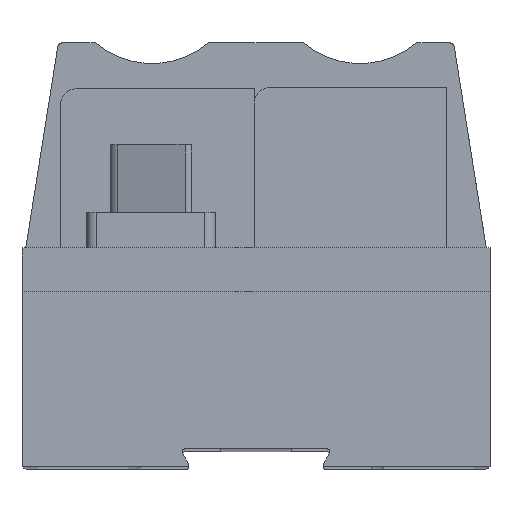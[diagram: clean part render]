
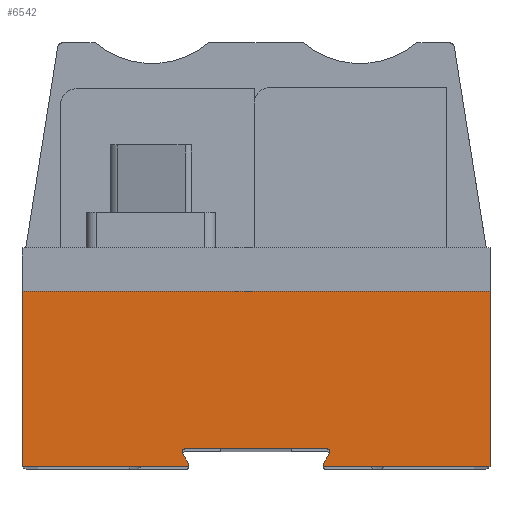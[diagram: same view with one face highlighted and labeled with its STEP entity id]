
A CAD part, top view. The second image highlights one B-rep face of the part: STEP entity #6542.
In plain terms, the highlighted planar face has unit normal (0, 0, 1).
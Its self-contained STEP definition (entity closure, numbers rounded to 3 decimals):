
#347=DIRECTION('',(0.,-1.,0.));
#348=VECTOR('',#347,16.85);
#349=CARTESIAN_POINT('',(-15.7,15.15,153.8));
#350=LINE('',#349,#348);
#351=DIRECTION('',(-1.,0.,0.));
#352=VECTOR('',#351,45.);
#353=CARTESIAN_POINT('',(29.3,15.15,153.8));
#354=LINE('',#353,#352);
#355=DIRECTION('',(0.,1.,0.));
#356=VECTOR('',#355,16.85);
#357=CARTESIAN_POINT('',(29.3,-1.7,153.8));
#358=LINE('',#357,#356);
#359=CARTESIAN_POINT('',(13.485,-1.5,153.8));
#360=DIRECTION('',(0.,0.,1.));
#361=DIRECTION('',(-0.866,0.5,0.));
#362=AXIS2_PLACEMENT_3D('',#359,#360,#361);
#364=DIRECTION('',(-0.5,-0.866,0.));
#365=VECTOR('',#364,1.097);
#366=CARTESIAN_POINT('',(13.86,-0.45,153.8));
#367=LINE('',#366,#365);
#368=CARTESIAN_POINT('',(13.6,-0.3,153.8));
#369=DIRECTION('',(0.,0.,-1.));
#370=DIRECTION('',(0.,1.,0.));
#371=AXIS2_PLACEMENT_3D('',#368,#369,#370);
#373=CARTESIAN_POINT('',(0.,-0.3,153.8));
#374=DIRECTION('',(0.,0.,-1.));
#375=DIRECTION('',(-0.866,-0.5,0.));
#376=AXIS2_PLACEMENT_3D('',#373,#374,#375);
#378=DIRECTION('',(-0.5,0.866,0.));
#379=VECTOR('',#378,1.097);
#380=CARTESIAN_POINT('',(0.289,-1.4,153.8));
#381=LINE('',#380,#379);
#382=CARTESIAN_POINT('',(0.115,-1.5,153.8));
#383=DIRECTION('',(0.,0.,1.));
#384=DIRECTION('',(0.,-1.,0.));
#385=AXIS2_PLACEMENT_3D('',#382,#383,#384);
#391=DIRECTION('',(-1.,0.,0.));
#392=VECTOR('',#391,15.815);
#393=CARTESIAN_POINT('',(29.3,-1.7,153.8));
#394=LINE('',#393,#392);
#719=DIRECTION('',(-1.,0.,0.));
#720=VECTOR('',#719,13.6);
#721=CARTESIAN_POINT('',(13.6,0.,153.8));
#722=LINE('',#721,#720);
#795=DIRECTION('',(-1.,0.,0.));
#796=VECTOR('',#795,15.815);
#797=CARTESIAN_POINT('',(0.115,-1.7,153.8));
#798=LINE('',#797,#796);
#4743=CARTESIAN_POINT('',(-15.7,15.15,153.8));
#4745=VERTEX_POINT('',#4743);
#4749=CARTESIAN_POINT('',(29.3,15.15,153.8));
#4750=VERTEX_POINT('',#4749);
#4793=CARTESIAN_POINT('',(13.311,-1.4,153.8));
#4794=VERTEX_POINT('',#4793);
#4795=CARTESIAN_POINT('',(13.485,-1.7,153.8));
#4796=VERTEX_POINT('',#4795);
#4895=CARTESIAN_POINT('',(-15.7,-1.7,153.8));
#4896=VERTEX_POINT('',#4895);
#4991=CARTESIAN_POINT('',(29.3,-1.7,153.8));
#4992=VERTEX_POINT('',#4991);
#5005=CARTESIAN_POINT('',(13.86,-0.45,153.8));
#5006=VERTEX_POINT('',#5005);
#5007=CARTESIAN_POINT('',(13.6,0.,153.8));
#5008=VERTEX_POINT('',#5007);
#5009=CARTESIAN_POINT('',(0.,0.,153.8));
#5010=VERTEX_POINT('',#5009);
#5011=CARTESIAN_POINT('',(-0.26,-0.45,153.8));
#5012=VERTEX_POINT('',#5011);
#5013=CARTESIAN_POINT('',(0.289,-1.4,153.8));
#5014=VERTEX_POINT('',#5013);
#5015=CARTESIAN_POINT('',(0.115,-1.7,153.8));
#5016=VERTEX_POINT('',#5015);
#6514=CARTESIAN_POINT('',(6.8,6.725,153.8));
#6515=DIRECTION('',(0.,0.,-1.));
#6516=DIRECTION('',(0.,-1.,0.));
#6517=AXIS2_PLACEMENT_3D('',#6514,#6515,#6516);
#6518=PLANE('',#6517);
#6519=ORIENTED_EDGE('',*,*,#6359,.F.);
#6520=ORIENTED_EDGE('',*,*,#6509,.F.);
#6521=ORIENTED_EDGE('',*,*,#6096,.F.);
#6523=ORIENTED_EDGE('',*,*,#6522,.T.);
#6525=ORIENTED_EDGE('',*,*,#6524,.F.);
#6527=ORIENTED_EDGE('',*,*,#6526,.F.);
#6529=ORIENTED_EDGE('',*,*,#6528,.F.);
#6531=ORIENTED_EDGE('',*,*,#6530,.T.);
#6533=ORIENTED_EDGE('',*,*,#6532,.F.);
#6535=ORIENTED_EDGE('',*,*,#6534,.F.);
#6537=ORIENTED_EDGE('',*,*,#6536,.F.);
#6539=ORIENTED_EDGE('',*,*,#6538,.T.);
#6540=EDGE_LOOP('',(#6519,#6520,#6521,#6523,#6525,#6527,#6529,#6531,#6533,#6535,
#6537,#6539));
#6541=FACE_OUTER_BOUND('',#6540,.F.);
#6542=ADVANCED_FACE('',(#6541),#6518,.F.);
#363=CIRCLE('',#362,0.2);
#372=CIRCLE('',#371,0.3);
#377=CIRCLE('',#376,0.3);
#386=CIRCLE('',#385,0.2);
#6096=EDGE_CURVE('',#4992,#4750,#358,.T.);
#6359=EDGE_CURVE('',#4745,#4896,#350,.T.);
#6509=EDGE_CURVE('',#4750,#4745,#354,.T.);
#6522=EDGE_CURVE('',#4992,#4796,#394,.T.);
#6524=EDGE_CURVE('',#4794,#4796,#363,.T.);
#6526=EDGE_CURVE('',#5006,#4794,#367,.T.);
#6528=EDGE_CURVE('',#5008,#5006,#372,.T.);
#6530=EDGE_CURVE('',#5008,#5010,#722,.T.);
#6532=EDGE_CURVE('',#5012,#5010,#377,.T.);
#6534=EDGE_CURVE('',#5014,#5012,#381,.T.);
#6536=EDGE_CURVE('',#5016,#5014,#386,.T.);
#6538=EDGE_CURVE('',#5016,#4896,#798,.T.);
